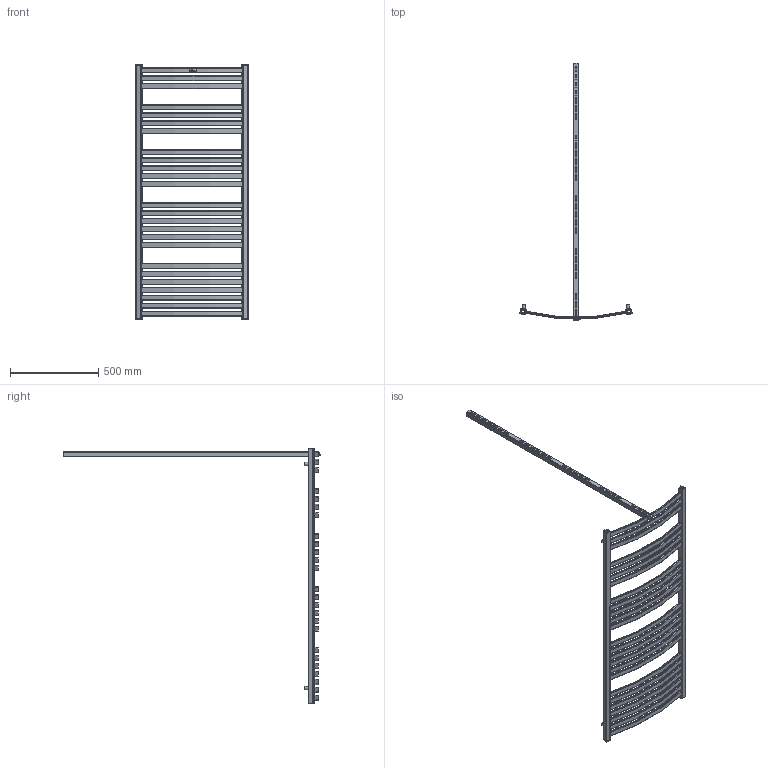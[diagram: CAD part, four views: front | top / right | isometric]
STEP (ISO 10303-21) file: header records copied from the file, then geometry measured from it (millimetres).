
FILE_DESCRIPTION( ( 'Unknown' ), '1' );
FILE_NAME( 'D:/Alplast sp. j/Witryna zespoBu - Projekty/Archiwum/Grzejniki Archiwum/Projekty/STANDARD/AK-EL/AK6-600EL.stp', 'Unknown', ( 'Unknown' ), ( 'Unknown' ), 'PSStep 10.1', 'Unknown', ' ' );
FILE_SCHEMA( ( 'AUTOMOTIVE_DESIGN { 1 0 10303 214 1 1 1 1 }' ) );
Length unit declared in the file: millimetre
Products named in the file (5): Assem1; zaslepka kwadrat otwor; tulejka kat 12stopni; kana³  poziomy lukowy L-600; AK6-EPEL
Bounding box: 635.77 x 1461 x 1450 mm (x, y, z)
Volume: 2300451 mm3; surface area: 3081234.5 mm2
Topology: 39 solids, 39 shells, 1262 faces, 3542 edges, 2368 vertices
Faces by surface type: plane 556, cylinder 488, torus 218
Full cylindrical faces by diameter (mm): 16 x5, 18 x5, 18.631 x5, 23 x5
Entity records: 11252 total; most frequent: DIRECTION 1636, CARTESIAN_POINT 1568, ORIENTED_EDGE 1516, EDGE_CURVE 758, AXIS2_PLACEMENT_3D 578, VERTEX_POINT 510, LINE 480, VECTOR 480
